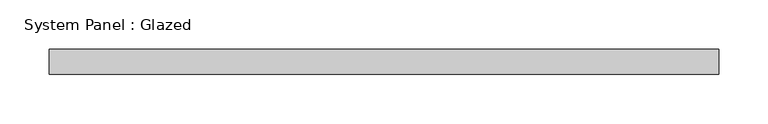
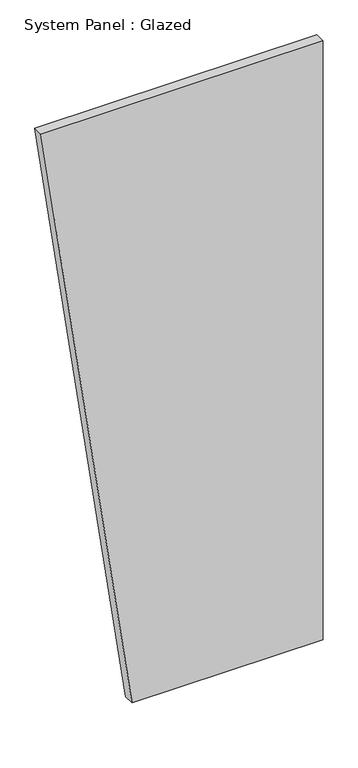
"""IFC4 building model written with IfcOpenShell, lengths in millimetres: plate geometry, System Panel : Glazed."""

from ifc_helpers import new_model, si_unit, frame, origin, place, context, project, spatial, polyline, outline, extrude, source, transform, mapped, element, save


def system_panel_glazed_a39baa39(model_context):
    return source(origin(), model_context, "Body", "SweptSolid", [
        extrude(outline(polyline([(0.0, -120.6043167), (0.0, 339.8848922), (1524.0, 339.8848922), (1524.0, -339.8848922), (0.0, -120.6043167)])), frame((0.0, 19.05, 0.0), z_axis=(0.0, 1.0, 0.0), x_axis=(0.0, 0.0, 1.0)), (0.0, 0.0, 1.0), 25.4),
    ])


if __name__ == "__main__":
    model = new_model("IFC4")
    model_context = context("Model", 3, world=origin())
    ifc_project = project(units=[si_unit("LENGTHUNIT", "METRE", prefix="MILLI")], contexts=[model_context])
    site = spatial("IfcSite", under=ifc_project)
    building = spatial("IfcBuilding", under=site)
    placement = place(None, origin())
    system_panel_glazed_shape = system_panel_glazed_a39baa39(model_context)
    element("IfcPlate", 1, ObjectType="System Panel : Glazed", at=placement, inside=building, context=model_context, shape_type="MappedRepresentation", body=[
        mapped(system_panel_glazed_shape, transform((0.0, 0.0, 0.0), x_axis=(1.0, 0.0, 0.0), y_axis=(0.0, 1.0, 0.0), z_axis=(0.0, 0.0, 1.0))),
    ])
    save(model, "model.ifc")
